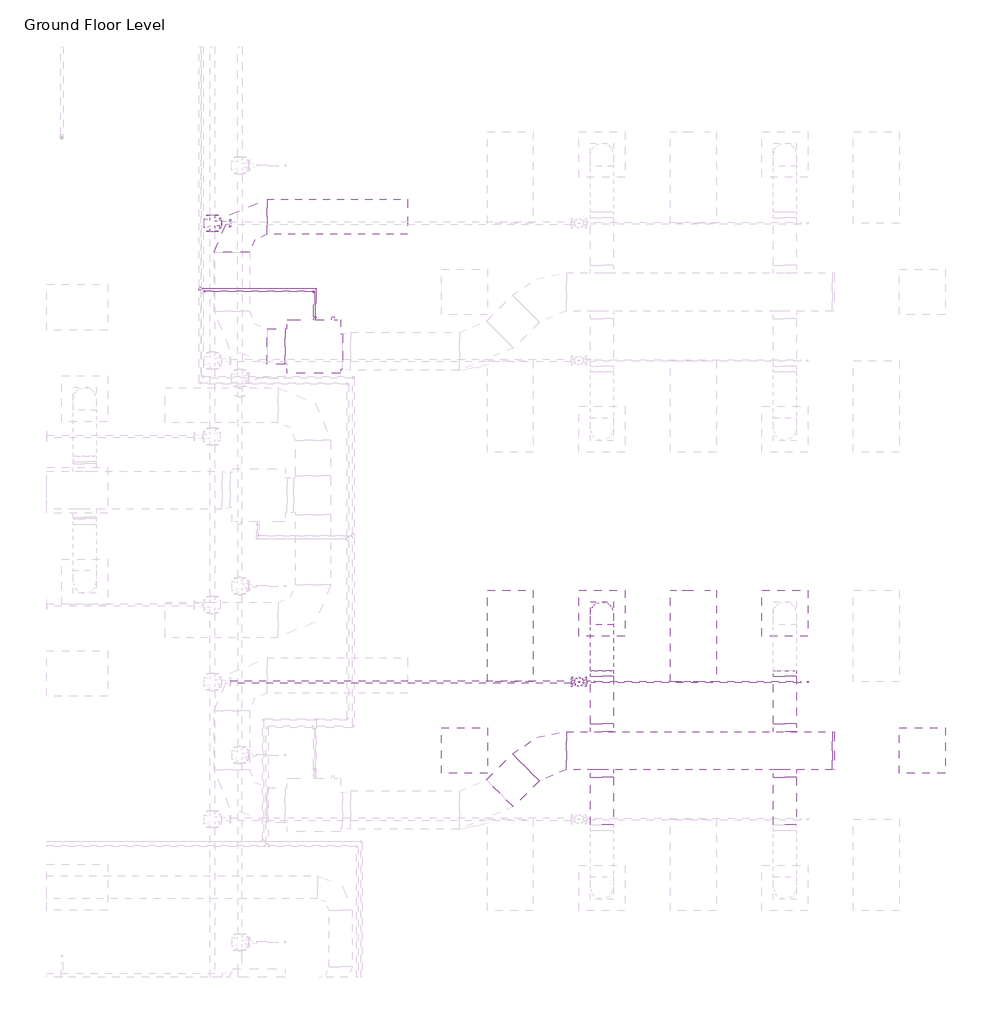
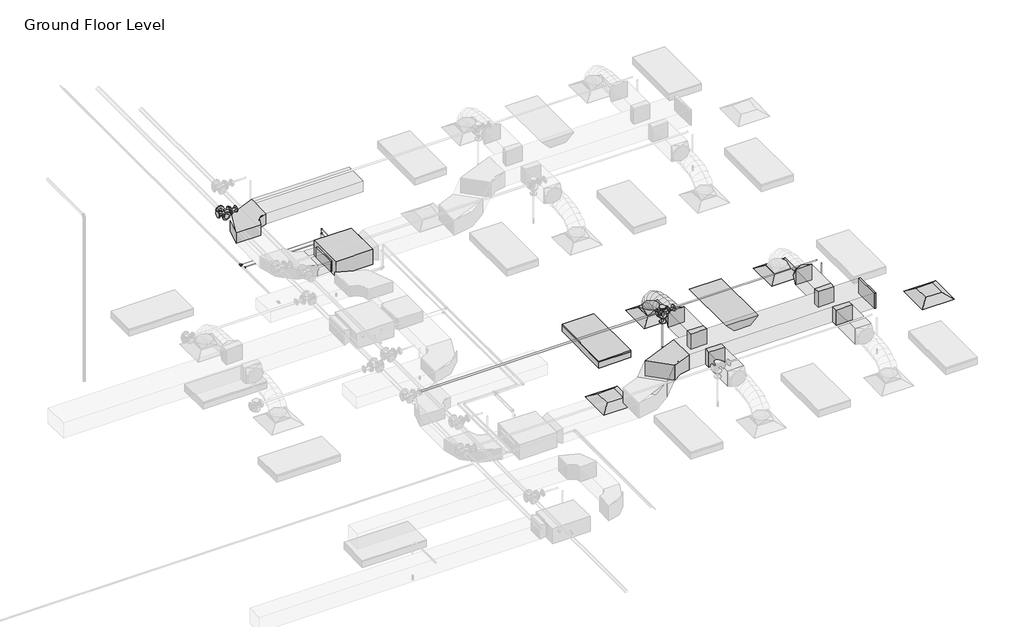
# One storey, part 62 of 72: 12 pipe fittings, 10 duct fittings, 10 pipe segments, 9 duct segments, 4 air terminals, 2 fire suppression terminals, 2 light fixtures, 1 proxy.
"""IFC4 building model written with IfcOpenShell, lengths in millimetres."""

from ifc_helpers import new_model, si_unit, point, frame, frame_2d, origin, place, context, project, spatial, polyline, circle_curve, ellipse_curve, trimmed, segment, composite_curve, outline, extrude, transform, mapped, element, save
from ifc_brep_helpers import plane_surface, cylinder_surface, advanced_brep
from components import m_return_diffuser_600_x_600_face_300_x_300_connection_ff221211, fcu_daikin_iu_bad131e0, m_rectangular_elbow_radius_1_w_54c96895, m_rectangular_elbow_radius_1_5_w_acc56c25, m_rectangular_endcap_standard_72d4d00d, m_rectangular_takeoff_standard_cb0ccb98, m_rectangular_takeoff_standard_2be5eba1, m_rectangular_to_round_transition_angle_45_degree_641efff0, m_sprinkler_dry_pendent_hosted_15_mm_dry_pendent_9bda8e11, m_emergency_recessed_lighting_fixture_600x1200_277_5b10b25d, m_troffer_light_parabolic_rectangular1_0600x1200mm_4_lamp_86473d4a, m_elbow_generic_standard_a088f956, m_elbow_generic_standard_2a704253, m_reducer_flanged_cs_class_150_standard_ccf252ad, m_reducer_flanged_cs_class_150_standard_a7631c35, m_tee_generic_standard_cdc1cff5, m_tee_round_base_flanged_cs_class_150_standard_dd767e04, m_tee_round_base_flanged_cs_class_150_standard_7e5987a1, m_transition_generic_standard_e9aec4dd, m_transition_generic_standard_c2658a33

model = new_model("IFC4")

# Units and contexts
model_context = context("Model", 3, world=origin())
ifc_project = project(units=[si_unit("LENGTHUNIT", "METRE", prefix="MILLI")], contexts=[model_context])

# Site, building, storey
site = spatial("IfcSite", under=ifc_project)
building = spatial("IfcBuilding", under=site)
storey = spatial("IfcBuildingStorey", under=building, Name="Ground Floor Level", Elevation=900.0)

# Air terminals
placement = place(None, origin())
m_return_diffuser_600_x_600_face_300_x_300_connection_shape = m_return_diffuser_600_x_600_face_300_x_300_connection_ff221211(model_context)
element("IfcAirTerminal", 1, ObjectType="M_Return Diffuser : 600 x 600 Face 300 x 300 Connection", at=placement, inside=storey, context=model_context, shape_type="MappedRepresentation", body=[
    mapped(m_return_diffuser_600_x_600_face_300_x_300_connection_shape, transform((8942.7672395, 725.2153534, 3650.0), x_axis=(1.0, 0.0, 0.0), y_axis=(0.0, 1.0, 0.0), z_axis=(0.0, 0.0, 1.0))),
])
element("IfcAirTerminal", 2, ObjectType="M_Return Diffuser : 600 x 600 Face 300 x 300 Connection", at=placement, inside=storey, context=model_context, shape_type="MappedRepresentation", body=[
    mapped(m_return_diffuser_600_x_600_face_300_x_300_connection_shape, transform((14942.7672395, 725.2153534, 3650.0), x_axis=(1.0, 0.0, 0.0), y_axis=(0.0, 1.0, 0.0), z_axis=(0.0, 0.0, 1.0))),
])
element("IfcAirTerminal", 3, ObjectType="M_Supply Diffuser : 600 x 600 Face 300 x 300 Connection", at=placement, inside=storey, context=model_context, shape_type="MappedRepresentation", body=[
    mapped(m_return_diffuser_600_x_600_face_300_x_300_connection_shape, transform((10742.7672395, 2525.2153534, 3650.0), x_axis=(1.0, 0.0, 0.0), y_axis=(0.0, 1.0, 0.0), z_axis=(0.0, 0.0, 1.0))),
])
element("IfcAirTerminal", 4, ObjectType="M_Supply Diffuser : 600 x 600 Face 300 x 300 Connection", at=placement, inside=storey, context=model_context, shape_type="MappedRepresentation", body=[
    mapped(m_return_diffuser_600_x_600_face_300_x_300_connection_shape, transform((13142.7672395, 2525.2153534, 3650.0), x_axis=(1.0, 0.0, 0.0), y_axis=(0.0, 1.0, 0.0), z_axis=(0.0, 0.0, 1.0))),
])

# Proxy
fcu_daikin_iu_shape = fcu_daikin_iu_bad131e0(model_context)
element("IfcBuildingElementProxy", 5, Name="FCU-DAIKIN IU : 4.5kW, 230V/50Hz/1Ph", ObjectType="FCU-DAIKIN IU : 4.5kW, 230V/50Hz/1Ph", at=placement, inside=storey, context=model_context, shape_type="MappedRepresentation", body=[
    mapped(fcu_daikin_iu_shape, transform((6968.8139492, 6019.6779527, 3934.0932729), x_axis=(0.0, 1.0, 0.0), y_axis=(-1.0, 0.0, 0.0), z_axis=(0.0, 0.0, 1.0))),
])

# Duct fittings
m_rectangular_elbow_radius_1_w_shape = m_rectangular_elbow_radius_1_w_54c96895(model_context)
element("IfcDuctFitting", 6, ObjectType="M_Rectangular Elbow - Radius : 1 W", at=placement, inside=storey, context=model_context, shape_type="MappedRepresentation", body=[
    mapped(m_rectangular_elbow_radius_1_w_shape, transform((5893.4139492, 7719.6783949, 4075.2932729), x_axis=(-1.0, 0.0, 0.0), y_axis=(0.0, -1.0, 0.0), z_axis=(0.0, 0.0, 1.0))),
])
m_rectangular_elbow_radius_1_5_w_shape = m_rectangular_elbow_radius_1_5_w_acc56c25(model_context)
element("IfcDuctFitting", 7, ObjectType="M_Rectangular Elbow - Radius : 1.5 W", at=placement, inside=storey, context=model_context, shape_type="MappedRepresentation", body=[
    mapped(m_rectangular_elbow_radius_1_5_w_shape, transform((9966.7301365, 725.2153534, 4100.0), x_axis=(-1.0, 0.0, 0.0), y_axis=(0.0, -0.9999999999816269, 6.061864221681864e-06), z_axis=(0.0, 6.061864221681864e-06, 0.9999999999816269))),
])
m_rectangular_endcap_standard_shape = m_rectangular_endcap_standard_72d4d00d(model_context)
element("IfcDuctFitting", 8, ObjectType="M_Rectangular Endcap : Standard", at=placement, inside=storey, context=model_context, shape_type="MappedRepresentation", body=[
    mapped(m_rectangular_endcap_standard_shape, transform((13766.7301365, 725.2153534, 4100.0), x_axis=(1.0, 0.0, 0.0), y_axis=(0.0, 1.0, 0.0), z_axis=(0.0, 0.0, 1.0))),
])
m_rectangular_takeoff_standard_shape = m_rectangular_takeoff_standard_cb0ccb98(model_context)
element("IfcDuctFitting", 9, ObjectType="M_Rectangular Takeoff : Standard", at=placement, inside=storey, context=model_context, shape_type="MappedRepresentation", body=[
    mapped(m_rectangular_takeoff_standard_shape, transform((10742.7672395, 975.2153534, 4100.0), x_axis=(0.0, 1.0, 0.0), y_axis=(1.0, 0.0, 0.0), z_axis=(0.0, 0.0, -1.0))),
])
element("IfcDuctFitting", 10, ObjectType="M_Rectangular Takeoff : Standard", at=placement, inside=storey, context=model_context, shape_type="MappedRepresentation", body=[
    mapped(m_rectangular_takeoff_standard_shape, transform((13142.7672395, 975.2153534, 4100.0), x_axis=(0.0, 1.0, 0.0), y_axis=(1.0, 0.0, 0.0), z_axis=(0.0, 0.0, -1.0))),
])
m_rectangular_takeoff_standard_2_shape = m_rectangular_takeoff_standard_2be5eba1(model_context)
element("IfcDuctFitting", 11, ObjectType="M_Rectangular Takeoff : Standard", at=placement, inside=storey, context=model_context, shape_type="MappedRepresentation", body=[
    mapped(m_rectangular_takeoff_standard_2_shape, transform((10742.7672395, 475.2153534, 4100.0), x_axis=(0.0, -1.0, 0.0), y_axis=(-1.0, 0.0, 0.0), z_axis=(0.0, 0.0, -1.0))),
])
element("IfcDuctFitting", 12, ObjectType="M_Rectangular Takeoff : Standard", at=placement, inside=storey, context=model_context, shape_type="MappedRepresentation", body=[
    mapped(m_rectangular_takeoff_standard_2_shape, transform((13142.7672395, 475.2153534, 4100.0), x_axis=(0.0, -1.0, 0.0), y_axis=(-1.0, 0.0, 0.0), z_axis=(0.0, 0.0, -1.0))),
])
m_rectangular_to_round_transition_angle_45_degree_shape = m_rectangular_to_round_transition_angle_45_degree_641efff0(model_context)
element("IfcDuctFitting", 13, ObjectType="M_Rectangular to Round Transition - Angle : 45 Degree", at=placement, inside=storey, context=model_context, shape_type="MappedRepresentation", body=[
    mapped(m_rectangular_to_round_transition_angle_45_degree_shape, transform((10742.7672395, 2525.2153534, 3751.6), x_axis=(0.0, 0.0, 1.0), y_axis=(-1.0, 0.0, 0.0), z_axis=(0.0, -1.0, 0.0))),
])
element("IfcDuctFitting", 14, ObjectType="M_Rectangular to Round Transition - Angle : 45 Degree", at=placement, inside=storey, context=model_context, shape_type="MappedRepresentation", body=[
    mapped(m_rectangular_to_round_transition_angle_45_degree_shape, transform((10742.7672395, 1697.8794221, 4100.0), x_axis=(0.0, 1.0, 0.0), y_axis=(-1.0, 0.0, 0.0), z_axis=(0.0, 0.0, 1.0))),
])
element("IfcDuctFitting", 15, ObjectType="M_Rectangular to Round Transition - Angle : 45 Degree", at=placement, inside=storey, context=model_context, shape_type="MappedRepresentation", body=[
    mapped(m_rectangular_to_round_transition_angle_45_degree_shape, transform((13142.7672395, 1697.8794221, 4100.0), x_axis=(0.0, 1.0, 0.0), y_axis=(-1.0, 0.0, 0.0), z_axis=(0.0, 0.0, 1.0))),
])

# Duct segments
element("IfcDuctSegment", 16, ObjectType="Flex - Round", at=placement, inside=storey, context=model_context, shape_type="AdvancedBrep", body=[
    advanced_brep(
    [(10892.7672395, 2525.2153534, 3826.6), (10742.7672395, 2375.2153534, 3826.6), (10592.7672395, 2525.2153534, 3826.6), (10742.7672395, 2675.2153534, 3826.6), (10892.7672395, 2525.2153534, 3857.9377114), (10742.7672395, 2375.2153534, 3832.2944892), (10592.7672395, 2525.2153534, 3857.9377114), (10742.7672395, 2675.2153534, 3883.5809337), (10892.7672395, 2508.1994208, 3906.2505728), (10742.7672395, 2374.4614419, 3834.435049), (10592.7672395, 2508.1994208, 3906.2505728), (10742.7672395, 2641.9373998, 3978.0660967), (10892.7672395, 2461.0155405, 3968.7113131), (10742.7672395, 2356.8096412, 3857.8020236), (10592.7672395, 2461.0155405, 3968.7113131), (10742.7672395, 2565.2214397, 4079.6206026), (10892.7672395, 2389.4595883, 4016.0700639), (10742.7672395, 2320.5255327, 3881.8163788), (10592.7672395, 2389.4595883, 4016.0700639), (10742.7672395, 2458.3936439, 4150.3237489), (10892.7672395, 2299.3274403, 4050.4146682), (10742.7672395, 2255.7666771, 3906.4925606), (10592.7672395, 2299.3274403, 4050.4146682), (10742.7672395, 2342.8882035, 4194.3367758), (10892.7672395, 2196.4149725, 4073.8329691), (10742.7672395, 2169.8540485, 3926.0424542), (10592.7672395, 2196.4149725, 4073.8329691), (10742.7672395, 2222.9758965, 4221.6234841), (10892.7672395, 2086.5180607, 4088.4128097), (10742.7672395, 2071.3671584, 3939.1085462), (10592.7672395, 2086.5180607, 4088.4128097), (10742.7672395, 2101.6689631, 4237.7170733), (10892.7672395, 1975.4325811, 4096.242033), (10742.7672395, 1967.9272529, 3946.398915), (10592.7672395, 1975.4325811, 4096.242033), (10742.7672395, 1982.9379093, 4246.085151), (10892.7672395, 1868.9544096, 4099.4084821), (10742.7672395, 1866.2629165, 3949.4222102), (10592.7672395, 1868.9544096, 4099.4084821), (10742.7672395, 1871.6459027, 4249.394754), (10892.7672395, 1772.8794221, 4100.0), (10742.7672395, 1773.8029299, 4249.9971571), (10592.7672395, 1772.8794221, 4100.0), (10742.7672395, 1771.9559143, 3950.0028429)],
    [
        (0, 1, circle_curve(frame((10742.7672395, 2525.2153534, 3826.6), z_axis=(0.0, 0.0, -1.0), x_axis=(1.0, 0.0, 0.0)), 150.0)),
        (1, 2, circle_curve(frame((10742.7672395, 2525.2153534, 3826.6), z_axis=(0.0, 0.0, -1.0), x_axis=(1.0, 0.0, 0.0)), 150.0)),
        (2, 3, circle_curve(frame((10742.7672395, 2525.2153534, 3826.6), z_axis=(0.0, 0.0, -1.0), x_axis=(1.0, 0.0, 0.0)), 150.0)),
        (3, 0, circle_curve(frame((10742.7672395, 2525.2153534, 3826.6), z_axis=(0.0, 0.0, -1.0), x_axis=(1.0, 0.0, 0.0)), 150.0)),
        (0, 4),
        (4, 5, ellipse_curve(frame((10742.7672395, 2525.2153534, 3857.9377114), z_axis=(0.0, 0.16851014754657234, -0.9856999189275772), x_axis=(0.0, -0.9856999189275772, -0.1685101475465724)), 152.176131, 150.0)),
        (5, 1),
        (5, 6, ellipse_curve(frame((10742.7672395, 2525.2153534, 3857.9377114), z_axis=(0.0, 0.16851014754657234, -0.9856999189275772), x_axis=(0.0, -0.9856999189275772, -0.1685101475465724)), 152.176131, 150.0)),
        (6, 2),
        (6, 7, ellipse_curve(frame((10742.7672395, 2525.2153534, 3857.9377114), z_axis=(0.0, 0.16851014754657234, -0.9856999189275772), x_axis=(0.0, -0.9856999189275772, -0.1685101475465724)), 152.176131, 150.0)),
        (7, 3),
        (7, 4, ellipse_curve(frame((10742.7672395, 2525.2153534, 3857.9377114), z_axis=(0.0, 0.16851014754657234, -0.9856999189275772), x_axis=(0.0, -0.9856999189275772, -0.1685101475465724)), 152.176131, 150.0)),
        (4, 8),
        (8, 9, ellipse_curve(frame((10742.7672395, 2508.1994208, 3906.2505728), z_axis=(0.0, 0.47309225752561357, -0.8810128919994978), x_axis=(0.0, -0.8810128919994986, -0.47309225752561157)), 151.8002519, 150.0)),
        (9, 5),
        (9, 10, ellipse_curve(frame((10742.7672395, 2508.1994208, 3906.2505728), z_axis=(0.0, 0.47309225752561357, -0.8810128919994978), x_axis=(0.0, -0.8810128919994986, -0.47309225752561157)), 151.8002519, 150.0)),
        (10, 6),
        (10, 11, ellipse_curve(frame((10742.7672395, 2508.1994208, 3906.2505728), z_axis=(0.0, 0.47309225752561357, -0.8810128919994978), x_axis=(0.0, -0.8810128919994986, -0.47309225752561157)), 151.8002519, 150.0)),
        (11, 7),
        (11, 8, ellipse_curve(frame((10742.7672395, 2508.1994208, 3906.2505728), z_axis=(0.0, 0.47309225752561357, -0.8810128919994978), x_axis=(0.0, -0.8810128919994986, -0.47309225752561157)), 151.8002519, 150.0)),
        (8, 12),
        (12, 13, ellipse_curve(frame((10742.7672395, 2461.0155405, 3968.7113131), z_axis=(0.0, 0.7287877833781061, -0.6847396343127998), x_axis=(0.0, -0.6847396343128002, -0.7287877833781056)), 152.1832446, 150.0)),
        (13, 9),
        (13, 14, ellipse_curve(frame((10742.7672395, 2461.0155405, 3968.7113131), z_axis=(0.0, 0.7287877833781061, -0.6847396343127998), x_axis=(0.0, -0.6847396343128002, -0.7287877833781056)), 152.1832446, 150.0)),
        (14, 10),
        (14, 15, ellipse_curve(frame((10742.7672395, 2461.0155405, 3968.7113131), z_axis=(0.0, 0.7287877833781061, -0.6847396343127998), x_axis=(0.0, -0.6847396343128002, -0.7287877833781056)), 152.1832446, 150.0)),
        (15, 11),
        (15, 12, ellipse_curve(frame((10742.7672395, 2461.0155405, 3968.7113131), z_axis=(0.0, 0.7287877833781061, -0.6847396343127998), x_axis=(0.0, -0.6847396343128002, -0.7287877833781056)), 152.1832446, 150.0)),
        (12, 16),
        (16, 17, ellipse_curve(frame((10742.7672395, 2389.4595883, 4016.0700639), z_axis=(0.0, 0.8895859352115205, -0.45676784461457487), x_axis=(0.0, -0.4567678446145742, -0.8895859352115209)), 150.91705, 150.0)),
        (17, 13),
        (17, 18, ellipse_curve(frame((10742.7672395, 2389.4595883, 4016.0700639), z_axis=(0.0, 0.8895859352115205, -0.45676784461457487), x_axis=(0.0, -0.4567678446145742, -0.8895859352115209)), 150.91705, 150.0)),
        (18, 14),
        (18, 19, ellipse_curve(frame((10742.7672395, 2389.4595883, 4016.0700639), z_axis=(0.0, 0.8895859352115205, -0.45676784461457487), x_axis=(0.0, -0.4567678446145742, -0.8895859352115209)), 150.91705, 150.0)),
        (19, 15),
        (19, 16, ellipse_curve(frame((10742.7672395, 2389.4595883, 4016.0700639), z_axis=(0.0, 0.8895859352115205, -0.45676784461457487), x_axis=(0.0, -0.4567678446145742, -0.8895859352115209)), 150.91705, 150.0)),
        (16, 20),
        (20, 21, ellipse_curve(frame((10742.7672395, 2299.3274403, 4050.4146682), z_axis=(0.0, 0.9571203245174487, -0.2896906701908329), x_axis=(0.0, -0.28969067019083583, -0.9571203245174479)), 150.369921, 150.0)),
        (21, 17),
        (21, 22, ellipse_curve(frame((10742.7672395, 2299.3274403, 4050.4146682), z_axis=(0.0, 0.9571203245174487, -0.2896906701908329), x_axis=(0.0, -0.28969067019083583, -0.9571203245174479)), 150.369921, 150.0)),
        (22, 18),
        (22, 23, ellipse_curve(frame((10742.7672395, 2299.3274403, 4050.4146682), z_axis=(0.0, 0.9571203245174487, -0.2896906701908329), x_axis=(0.0, -0.28969067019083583, -0.9571203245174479)), 150.369921, 150.0)),
        (23, 19),
        (23, 20, ellipse_curve(frame((10742.7672395, 2299.3274403, 4050.4146682), z_axis=(0.0, 0.9571203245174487, -0.2896906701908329), x_axis=(0.0, -0.28969067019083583, -0.9571203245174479)), 150.369921, 150.0)),
        (20, 24),
        (24, 25, ellipse_curve(frame((10742.7672395, 2196.4149725, 4073.8329691), z_axis=(0.0, 0.9842313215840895, -0.1768861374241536), x_axis=(0.0, -0.1768861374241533, -0.9842313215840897)), 150.1583131, 150.0)),
        (25, 21),
        (25, 26, ellipse_curve(frame((10742.7672395, 2196.4149725, 4073.8329691), z_axis=(0.0, 0.9842313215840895, -0.1768861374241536), x_axis=(0.0, -0.1768861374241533, -0.9842313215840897)), 150.1583131, 150.0)),
        (26, 22),
        (26, 27, ellipse_curve(frame((10742.7672395, 2196.4149725, 4073.8329691), z_axis=(0.0, 0.9842313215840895, -0.1768861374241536), x_axis=(0.0, -0.1768861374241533, -0.9842313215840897)), 150.1583131, 150.0)),
        (27, 23),
        (27, 24, ellipse_curve(frame((10742.7672395, 2196.4149725, 4073.8329691), z_axis=(0.0, 0.9842313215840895, -0.1768861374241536), x_axis=(0.0, -0.1768861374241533, -0.9842313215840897)), 150.1583131, 150.0)),
        (24, 28),
        (28, 29, ellipse_curve(frame((10742.7672395, 2086.5180607, 4088.4128097), z_axis=(0.0, 0.9948906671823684, -0.10095821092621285), x_axis=(0.0, -0.10095821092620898, -0.9948906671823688)), 150.0710264, 150.0)),
        (29, 25),
        (29, 30, ellipse_curve(frame((10742.7672395, 2086.5180607, 4088.4128097), z_axis=(0.0, 0.9948906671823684, -0.10095821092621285), x_axis=(0.0, -0.10095821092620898, -0.9948906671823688)), 150.0710264, 150.0)),
        (30, 26),
        (30, 31, ellipse_curve(frame((10742.7672395, 2086.5180607, 4088.4128097), z_axis=(0.0, 0.9948906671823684, -0.10095821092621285), x_axis=(0.0, -0.10095821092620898, -0.9948906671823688)), 150.0710264, 150.0)),
        (31, 27),
        (31, 28, ellipse_curve(frame((10742.7672395, 2086.5180607, 4088.4128097), z_axis=(0.0, 0.9948906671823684, -0.10095821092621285), x_axis=(0.0, -0.10095821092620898, -0.9948906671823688)), 150.0710264, 150.0)),
        (28, 32),
        (32, 33, ellipse_curve(frame((10742.7672395, 1975.4325811, 4096.242033), z_axis=(0.0, 0.9987479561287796, -0.050025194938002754), x_axis=(0.0, -0.05002519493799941, -0.99874795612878)), 150.0309634, 150.0)),
        (33, 29),
        (33, 34, ellipse_curve(frame((10742.7672395, 1975.4325811, 4096.242033), z_axis=(0.0, 0.9987479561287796, -0.050025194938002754), x_axis=(0.0, -0.05002519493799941, -0.99874795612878)), 150.0309634, 150.0)),
        (34, 30),
        (34, 35, ellipse_curve(frame((10742.7672395, 1975.4325811, 4096.242033), z_axis=(0.0, 0.9987479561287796, -0.050025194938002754), x_axis=(0.0, -0.05002519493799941, -0.99874795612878)), 150.0309634, 150.0)),
        (35, 31),
        (35, 32, ellipse_curve(frame((10742.7672395, 1975.4325811, 4096.242033), z_axis=(0.0, 0.9987479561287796, -0.050025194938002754), x_axis=(0.0, -0.05002519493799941, -0.99874795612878)), 150.0309634, 150.0)),
        (32, 36),
        (36, 37, ellipse_curve(frame((10742.7672395, 1868.9544096, 4099.4084821), z_axis=(0.0, 0.9998390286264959, -0.01794204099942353), x_axis=(0.0, -0.017942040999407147, -0.9998390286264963)), 150.0104193, 150.0)),
        (37, 33),
        (37, 38, ellipse_curve(frame((10742.7672395, 1868.9544096, 4099.4084821), z_axis=(0.0, 0.9998390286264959, -0.01794204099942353), x_axis=(0.0, -0.017942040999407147, -0.9998390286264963)), 150.0104193, 150.0)),
        (38, 34),
        (38, 39, ellipse_curve(frame((10742.7672395, 1868.9544096, 4099.4084821), z_axis=(0.0, 0.9998390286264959, -0.01794204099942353), x_axis=(0.0, -0.017942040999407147, -0.9998390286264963)), 150.0104193, 150.0)),
        (39, 35),
        (39, 36, ellipse_curve(frame((10742.7672395, 1868.9544096, 4099.4084821), z_axis=(0.0, 0.9998390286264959, -0.01794204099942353), x_axis=(0.0, -0.017942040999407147, -0.9998390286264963)), 150.0104193, 150.0)),
        (40, 41, circle_curve(frame((10742.7672395, 1772.8794221, 4100.0), z_axis=(0.0, -0.9999810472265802, 0.006156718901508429), x_axis=(1.0, 0.0, 0.0)), 150.0)),
        (41, 42, circle_curve(frame((10742.7672395, 1772.8794221, 4100.0), z_axis=(0.0, -0.9999810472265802, 0.006156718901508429), x_axis=(1.0, 0.0, 0.0)), 150.0)),
        (42, 43, circle_curve(frame((10742.7672395, 1772.8794221, 4100.0), z_axis=(0.0, -0.9999810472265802, 0.006156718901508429), x_axis=(1.0, 0.0, 0.0)), 150.0)),
        (43, 40, circle_curve(frame((10742.7672395, 1772.8794221, 4100.0), z_axis=(0.0, -0.9999810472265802, 0.006156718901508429), x_axis=(1.0, 0.0, 0.0)), 150.0)),
        (36, 40),
        (43, 37),
        (42, 38),
        (41, 39),
    ],
    [
        plane_surface(frame((10742.7672395, 2375.2153534, 3826.6), z_axis=(0.0, 0.0, -1.0), x_axis=(1.0, 0.0, 0.0))),
        cylinder_surface(frame((10742.7672395, 2525.2153534, 3826.6), z_axis=(0.0, 0.0, -1.0), x_axis=(1.0, 0.0, 0.0)), 150.0),
        cylinder_surface(frame((10742.7672395, 2525.2153534, 3857.9377114), z_axis=(0.0, 0.3322008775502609, -0.9432086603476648), x_axis=(1.0, 0.0, 0.0)), 150.0),
        cylinder_surface(frame((10742.7672395, 2508.1994208, 3906.2505728), z_axis=(0.0, 0.6027625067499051, -0.7979206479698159), x_axis=(1.0, 0.0, 0.0)), 150.0),
        cylinder_surface(frame((10742.7672395, 2461.0155405, 3968.7113131), z_axis=(0.0, 0.8339024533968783, -0.5519118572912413), x_axis=(1.0, 0.0, 0.0)), 150.0),
        cylinder_surface(frame((10742.7672395, 2389.4595883, 4016.0700639), z_axis=(0.0, 0.9344582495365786, -0.35607271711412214), x_axis=(1.0, 0.0, 0.0)), 150.0),
        cylinder_surface(frame((10742.7672395, 2299.3274403, 4050.4146682), z_axis=(0.0, 0.9750732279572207, -0.22188330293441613), x_axis=(1.0, 0.0, 0.0)), 150.0),
        cylinder_surface(frame((10742.7672395, 2196.4149725, 4073.8329691), z_axis=(0.0, 0.9913140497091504, -0.13151598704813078), x_axis=(1.0, 0.0, 0.0)), 150.0),
        cylinder_surface(frame((10742.7672395, 2086.5180607, 4088.4128097), z_axis=(0.0, 0.9975255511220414, -0.07030487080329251), x_axis=(1.0, 0.0, 0.0)), 150.0),
        cylinder_surface(frame((10742.7672395, 1975.4325811, 4096.242033), z_axis=(0.0, 0.9995581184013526, -0.029724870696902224), x_axis=(1.0, 0.0, 0.0)), 150.0),
        plane_surface(frame((10742.7672395, 1771.9559143, 3950.0028429), z_axis=(0.0, -0.9999810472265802, 0.006156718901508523), x_axis=(1.0, 0.0, 0.0))),
        cylinder_surface(frame((10742.7672395, 1868.9544096, 4099.4084821), z_axis=(0.0, 0.9999810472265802, -0.006156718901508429), x_axis=(1.0, 0.0, 0.0)), 150.0),
    ],
    [
        (0, [[1, 2, 3, 4]]),
        (1, [[-1, 5, 6, 7]]),
        (1, [[-2, -7, 8, 9]]),
        (1, [[-3, -9, 10, 11]]),
        (1, [[-4, -11, 12, -5]]),
        (2, [[-6, 13, 14, 15]]),
        (2, [[-8, -15, 16, 17]]),
        (2, [[-10, -17, 18, 19]]),
        (2, [[-12, -19, 20, -13]]),
        (3, [[-14, 21, 22, 23]]),
        (3, [[-16, -23, 24, 25]]),
        (3, [[-18, -25, 26, 27]]),
        (3, [[-20, -27, 28, -21]]),
        (4, [[-22, 29, 30, 31]]),
        (4, [[-24, -31, 32, 33]]),
        (4, [[-26, -33, 34, 35]]),
        (4, [[-28, -35, 36, -29]]),
        (5, [[-30, 37, 38, 39]]),
        (5, [[-32, -39, 40, 41]]),
        (5, [[-34, -41, 42, 43]]),
        (5, [[-36, -43, 44, -37]]),
        (6, [[-38, 45, 46, 47]]),
        (6, [[-40, -47, 48, 49]]),
        (6, [[-42, -49, 50, 51]]),
        (6, [[-44, -51, 52, -45]]),
        (7, [[-46, 53, 54, 55]]),
        (7, [[-48, -55, 56, 57]]),
        (7, [[-50, -57, 58, 59]]),
        (7, [[-52, -59, 60, -53]]),
        (8, [[-54, 61, 62, 63]]),
        (8, [[-56, -63, 64, 65]]),
        (8, [[-58, -65, 66, 67]]),
        (8, [[-60, -67, 68, -61]]),
        (9, [[-62, 69, 70, 71]]),
        (9, [[-64, -71, 72, 73]]),
        (9, [[-66, -73, 74, 75]]),
        (9, [[-68, -75, 76, -69]]),
        (10, [[77, 78, 79, 80]]),
        (11, [[-70, 81, -80, 82]]),
        (11, [[-72, -82, -79, 83]]),
        (11, [[-74, -83, -78, 84]]),
        (11, [[-76, -84, -77, -81]]),
    ],
),
])
element("IfcDuctSegment", 17, ObjectType="Radius Elbows / Taps", at=placement, inside=storey, context=model_context, shape_type="SweptSolid", body=[
    extrude(outline(polyline([(6593.4139492, 6250.6154527), (6593.4139492, 5788.7404527), (6355.2889492, 5788.7404527), (6355.2889492, 6250.6154527), (6593.4139492, 6250.6154527)])), frame((0.0, 0.0, 3968.1432729), z_axis=(0.0, 0.0, 1.0), x_axis=(1.0, 0.0, 0.0)), (0.0, 0.0, 1.0), 214.3),
])
element("IfcDuctSegment", 18, ObjectType="Radius Elbows / Taps", at=placement, inside=storey, context=model_context, shape_type="SweptSolid", body=[
    extrude(outline(polyline([(6355.2889492, 7488.7408949), (6355.2889492, 7950.6158949), (8193.4139492, 7950.6158949), (8193.4139492, 7488.7408949), (6355.2889492, 7488.7408949)])), frame((0.0, 0.0, 3968.1432729), z_axis=(0.0, 0.0, 1.0), x_axis=(1.0, 0.0, 0.0)), (0.0, 0.0, 1.0), 214.3),
])
element("IfcDuctSegment", 19, ObjectType="Radius Elbows / Taps", at=placement, inside=storey, context=model_context, shape_type="SweptSolid", body=[
    extrude(outline(polyline([(9584.1393452, -10.9288285), (9230.5859546, 342.6245621), (9570.2835271, 682.3221346), (9923.8369177, 328.768744), (9584.1393452, -10.9288285)])), frame((0.0, 0.0, 3950.0033908), z_axis=(0.0, 0.0, 1.0), x_axis=(1.0, 0.0, 0.0)), (0.0, 0.0, 1.0), 300.0),
])
element("IfcDuctSegment", 20, ObjectType="Radius Elbows / Taps", at=placement, inside=storey, context=model_context, shape_type="SweptSolid", body=[
    extrude(outline(polyline([(10277.3903083, 475.2153534), (10277.3903083, 975.2153534), (13766.7301365, 975.2153534), (13766.7301365, 475.2153534), (10277.3903083, 475.2153534)])), frame((0.0, 0.0, 3950.0), z_axis=(0.0, 0.0, 1.0), x_axis=(1.0, 0.0, 0.0)), (0.0, 0.0, 1.0), 300.0),
])
element("IfcDuctSegment", 21, ObjectType="Radius Elbows / Taps", at=placement, inside=storey, context=model_context, shape_type="SweptSolid", body=[
    extrude(outline(polyline([(10892.7672395, 1076.8153534), (10592.7672395, 1076.8153534), (10592.7672395, 1697.8794221), (10892.7672395, 1697.8794221), (10892.7672395, 1076.8153534)])), frame((0.0, 0.0, 3950.0), z_axis=(0.0, 0.0, 1.0), x_axis=(1.0, 0.0, 0.0)), (0.0, 0.0, 1.0), 300.0),
])
element("IfcDuctSegment", 22, ObjectType="Radius Elbows / Taps", at=placement, inside=storey, context=model_context, shape_type="SweptSolid", body=[
    extrude(outline(polyline([(13292.7672395, 1076.8153534), (12992.7672395, 1076.8153534), (12992.7672395, 1697.8794221), (13292.7672395, 1697.8794221), (13292.7672395, 1076.8153534)])), frame((0.0, 0.0, 3950.0), z_axis=(0.0, 0.0, 1.0), x_axis=(1.0, 0.0, 0.0)), (0.0, 0.0, 1.0), 300.0),
])
element("IfcDuctSegment", 23, ObjectType="Radius Elbows / Taps", at=placement, inside=storey, context=model_context, shape_type="SweptSolid", body=[
    extrude(outline(polyline([(10592.7672395, 373.6153534), (10892.7672395, 373.6153534), (10892.7672395, -247.4487153), (10592.7672395, -247.4487153), (10592.7672395, 373.6153534)])), frame((0.0, 0.0, 3950.0), z_axis=(0.0, 0.0, 1.0), x_axis=(1.0, 0.0, 0.0)), (0.0, 0.0, 1.0), 300.0),
])
element("IfcDuctSegment", 24, ObjectType="Radius Elbows / Taps", at=placement, inside=storey, context=model_context, shape_type="SweptSolid", body=[
    extrude(outline(polyline([(12992.7672395, 373.6153534), (13292.7672395, 373.6153534), (13292.7672395, -247.4487153), (12992.7672395, -247.4487153), (12992.7672395, 373.6153534)])), frame((0.0, 0.0, 3950.0), z_axis=(0.0, 0.0, 1.0), x_axis=(1.0, 0.0, 0.0)), (0.0, 0.0, 1.0), 300.0),
])

# Fire suppression terminals
m_sprinkler_dry_pendent_hosted_15_mm_dry_pendent_shape = m_sprinkler_dry_pendent_hosted_15_mm_dry_pendent_9bda8e11(model_context)
element("IfcFireSuppressionTerminal", 25, ObjectType="M_Sprinkler - Dry - Pendent - Hosted : 15 mm Dry Pendent", at=placement, inside=storey, context=model_context, shape_type="MappedRepresentation", body=[
    mapped(m_sprinkler_dry_pendent_hosted_15_mm_dry_pendent_shape, transform((10442.7672395, 1625.2153534, 3650.0), x_axis=(1.0, 0.0, 0.0), y_axis=(0.0, -1.0, 0.0), z_axis=(0.0, 0.0, -1.0))),
])
element("IfcFireSuppressionTerminal", 26, ObjectType="M_Sprinkler - Dry - Pendent - Hosted : 15 mm Dry Pendent", at=placement, inside=storey, context=model_context, shape_type="MappedRepresentation", body=[
    mapped(m_sprinkler_dry_pendent_hosted_15_mm_dry_pendent_shape, transform((13442.7672395, 1625.2153534, 3650.0), x_axis=(1.0, 0.0, 0.0), y_axis=(0.0, -1.0, 0.0), z_axis=(0.0, 0.0, -1.0))),
])

# Light fixtures
m_emergency_recessed_lighting_fixture_600x1200_277_shape = m_emergency_recessed_lighting_fixture_600x1200_277_5b10b25d(model_context)
element("IfcLightFixture", 27, ObjectType="M_Emergency Recessed Lighting Fixture : 600x1200 - 277", at=placement, inside=storey, context=model_context, shape_type="MappedRepresentation", body=[
    mapped(m_emergency_recessed_lighting_fixture_600x1200_277_shape, transform((11642.7672395, 1625.2153534, 3650.0), x_axis=(0.0, 1.0, 0.0), y_axis=(-1.0, 0.0, 0.0), z_axis=(0.0, 0.0, 1.0))),
])
m_troffer_light_parabolic_rectangular1_0600x1200mm_4_lamp_shape = m_troffer_light_parabolic_rectangular1_0600x1200mm_4_lamp_86473d4a(model_context)
element("IfcLightFixture", 28, ObjectType="M_Troffer Light - Parabolic Rectangular1 : 0600x1200mm(4 Lamp) - 277V 2", at=placement, inside=storey, context=model_context, shape_type="MappedRepresentation", body=[
    mapped(m_troffer_light_parabolic_rectangular1_0600x1200mm_4_lamp_shape, transform((9483.3013074, 2243.918855, 3650.0), x_axis=(0.0, 1.0, 0.0), y_axis=(-1.0, 0.0, 0.0), z_axis=(0.0, 0.0, 1.0))),
])

# Pipe fittings
m_elbow_generic_standard_shape = m_elbow_generic_standard_a088f956(model_context)
element("IfcPipeFitting", 29, ObjectType="M_Elbow - Generic : Standard", at=placement, inside=storey, context=model_context, shape_type="MappedRepresentation", body=[
    mapped(m_elbow_generic_standard_shape, transform((6968.8139492, 6741.4098545, 4034.0932729), x_axis=(0.0, 1.0, 0.0), y_axis=(0.0, 0.0, -1.0), z_axis=(-1.0, 0.0, 0.0))),
])
element("IfcPipeFitting", 30, ObjectType="M_Elbow - Generic : Standard", at=placement, inside=storey, context=model_context, shape_type="MappedRepresentation", body=[
    mapped(m_elbow_generic_standard_shape, transform((6968.8139492, 6741.4098545, 3851.8370709), x_axis=(0.0, 0.0, -1.0), y_axis=(-1.0, 0.0, 0.0), z_axis=(0.0, 1.0, 0.0))),
])
m_elbow_generic_standard_2_shape = m_elbow_generic_standard_2a704253(model_context)
element("IfcPipeFitting", 31, ObjectType="M_Elbow - Generic : Standard", at=placement, inside=storey, context=model_context, shape_type="MappedRepresentation", body=[
    mapped(m_elbow_generic_standard_2_shape, transform((6993.8139492, 6781.5253374, 4084.8932729), x_axis=(0.0, 1.0, 0.0), y_axis=(0.0, 0.0, -1.0), z_axis=(-1.0, 0.0, 0.0))),
])
element("IfcPipeFitting", 32, ObjectType="M_Elbow - Generic : Standard", at=placement, inside=storey, context=model_context, shape_type="MappedRepresentation", body=[
    mapped(m_elbow_generic_standard_2_shape, transform((6993.8139492, 6781.5253374, 3894.9), x_axis=(0.0, 0.0, -1.0), y_axis=(-1.0, 0.0, 0.0), z_axis=(0.0, 1.0, 0.0))),
])
m_reducer_flanged_cs_class_150_standard_shape = m_reducer_flanged_cs_class_150_standard_ccf252ad(model_context)
element("IfcPipeFitting", 33, ObjectType="M_Reducer - Flanged - CS - Class 150 : Standard", at=placement, inside=storey, context=model_context, shape_type="MappedRepresentation", body=[
    mapped(m_reducer_flanged_cs_class_150_standard_shape, transform((10543.4758332, 1625.2153534, 4360.0), x_axis=(1.0, 0.0, 0.0), y_axis=(0.0, 0.0, 1.0), z_axis=(0.0, -1.0, 0.0))),
])
element("IfcPipeFitting", 34, ObjectType="M_Reducer - Flanged - CS - Class 150 : Standard", at=placement, inside=storey, context=model_context, shape_type="MappedRepresentation", body=[
    mapped(m_reducer_flanged_cs_class_150_standard_shape, transform((10442.7672395, 1625.2153534, 4259.2914062), x_axis=(0.0, 0.0, -1.0), y_axis=(-1.0, 0.0, 0.0), z_axis=(0.0, 1.0, 0.0))),
])
m_reducer_flanged_cs_class_150_standard_2_shape = m_reducer_flanged_cs_class_150_standard_a7631c35(model_context)
element("IfcPipeFitting", 35, ObjectType="M_Reducer - Flanged - CS - Class 150 : Standard", at=placement, inside=storey, context=model_context, shape_type="MappedRepresentation", body=[
    mapped(m_reducer_flanged_cs_class_150_standard_2_shape, transform((5749.869498, 7635.2153534, 4360.0), x_axis=(1.0, 0.0, 0.0), y_axis=(0.0, 0.0, 1.0), z_axis=(0.0, -1.0, 0.0))),
])
m_tee_generic_standard_shape = m_tee_generic_standard_cdc1cff5(model_context)
element("IfcPipeFitting", 36, ObjectType="M_Tee - Generic : Standard", at=placement, inside=storey, context=model_context, shape_type="MappedRepresentation", body=[
    mapped(m_tee_generic_standard_shape, transform((5472.2057053, 6781.5253374, 3894.9), x_axis=(0.0, 1.0, 0.0), y_axis=(-1.0, 0.0, 0.0), z_axis=(0.0, 0.0, 1.0))),
])
m_tee_round_base_flanged_cs_class_150_standard_shape = m_tee_round_base_flanged_cs_class_150_standard_dd767e04(model_context)
element("IfcPipeFitting", 37, ObjectType="M_Tee Round Base - Flanged - CS - Class 150 : Standard", at=placement, inside=storey, context=model_context, shape_type="MappedRepresentation", body=[
    mapped(m_tee_round_base_flanged_cs_class_150_standard_shape, transform((5635.869498, 7635.2153534, 4360.0), x_axis=(0.0, 1.0, 0.0), y_axis=(-1.0, 0.0, 0.0), z_axis=(0.0, 0.0, 1.0))),
])
m_tee_round_base_flanged_cs_class_150_standard_2_shape = m_tee_round_base_flanged_cs_class_150_standard_7e5987a1(model_context)
element("IfcPipeFitting", 38, ObjectType="M_Tee Round Base - Flanged - CS - Class 150 : Standard", at=placement, inside=storey, context=model_context, shape_type="MappedRepresentation", body=[
    mapped(m_tee_round_base_flanged_cs_class_150_standard_2_shape, transform((10442.7672395, 1625.2153534, 4360.0), x_axis=(1.0, 0.0, 0.0), y_axis=(0.0, 0.0, 1.0), z_axis=(0.0, -1.0, 0.0))),
])
m_transition_generic_standard_shape = m_transition_generic_standard_e9aec4dd(model_context)
element("IfcPipeFitting", 39, ObjectType="M_Transition - Generic : Standard", at=placement, inside=storey, context=model_context, shape_type="MappedRepresentation", body=[
    mapped(m_transition_generic_standard_shape, transform((5530.4672395, 6741.4098545, 3851.8370709), x_axis=(1.0, 0.0, 0.0), y_axis=(0.0, 1.0, 0.0), z_axis=(0.0, 0.0, 1.0))),
])
m_transition_generic_standard_2_shape = m_transition_generic_standard_c2658a33(model_context)
element("IfcPipeFitting", 40, ObjectType="M_Transition - Generic : Standard", at=placement, inside=storey, context=model_context, shape_type="MappedRepresentation", body=[
    mapped(m_transition_generic_standard_2_shape, transform((5494.4307053, 6781.5253374, 3894.9), x_axis=(1.0, 0.0, 0.0), y_axis=(0.0, 1.0, 0.0), z_axis=(0.0, 0.0, 1.0))),
])

# Pipe segments
element("IfcPipeSegment", 41, ObjectType="Copper", at=placement, inside=storey, context=model_context, shape_type="SweptSolid", body=[
    extrude(outline(composite_curve([segment(trimmed(circle_curve(frame_2d((6781.5253374, 3894.9)), 3.35), [point((6784.8753374, 3894.9))], [point((6781.5253374, 3891.55))], False, "CARTESIAN"), True, "CONTINUOUS"), segment(trimmed(circle_curve(frame_2d((6781.5253374, 3894.9)), 3.35), [point((6781.5253374, 3891.55))], [point((6778.1753374, 3894.9))], False, "CARTESIAN"), True, "CONTINUOUS"), segment(trimmed(circle_curve(frame_2d((6781.5253374, 3894.9)), 3.35), [point((6778.1753374, 3894.9))], [point((6781.5253374, 3898.25))], False, "CARTESIAN"), True, "CONTINUOUS"), segment(trimmed(circle_curve(frame_2d((6781.5253374, 3894.9)), 3.35), [point((6781.5253374, 3898.25))], [point((6784.8753374, 3894.9))], False, "CARTESIAN"), True, "CONTINUOUS")], self_intersect=False)), frame((5499.1932053, 0.0, 0.0), z_axis=(1.0, 0.0, 0.0), x_axis=(0.0, 1.0, 0.0)), (0.0, 0.0, 1.0), 1483.483244),
])
element("IfcPipeSegment", 42, ObjectType="Copper", at=placement, inside=storey, context=model_context, shape_type="SweptSolid", body=[
    extrude(outline(composite_curve([segment(trimmed(circle_curve(frame_2d((6741.4098545, 3851.8370709)), 6.5), [point((6747.9098545, 3851.8370709))], [point((6741.4098545, 3845.3370709))], False, "CARTESIAN"), True, "CONTINUOUS"), segment(trimmed(circle_curve(frame_2d((6741.4098545, 3851.8370709)), 6.5), [point((6741.4098545, 3845.3370709))], [point((6734.9098545, 3851.8370709))], False, "CARTESIAN"), True, "CONTINUOUS"), segment(trimmed(circle_curve(frame_2d((6741.4098545, 3851.8370709)), 6.5), [point((6734.9098545, 3851.8370709))], [point((6741.4098545, 3858.3370709))], False, "CARTESIAN"), True, "CONTINUOUS"), segment(trimmed(circle_curve(frame_2d((6741.4098545, 3851.8370709)), 6.5), [point((6741.4098545, 3858.3370709))], [point((6747.9098545, 3851.8370709))], False, "CARTESIAN"), True, "CONTINUOUS")], self_intersect=False)), frame((5536.8172395, 0.0, 0.0), z_axis=(1.0, 0.0, 0.0), x_axis=(0.0, 1.0, 0.0)), (0.0, 0.0, 1.0), 1417.7092098),
])
element("IfcPipeSegment", 43, ObjectType="Copper", at=placement, inside=storey, context=model_context, shape_type="SweptSolid", body=[
    extrude(outline(composite_curve([segment(trimmed(circle_curve(frame_2d((4034.0932729, 6968.8139492)), 6.5), [point((4034.0932729, 6975.3139492))], [point((4040.5932729, 6968.8139492))], False, "CARTESIAN"), True, "CONTINUOUS"), segment(trimmed(circle_curve(frame_2d((4034.0932729, 6968.8139492)), 6.5), [point((4040.5932729, 6968.8139492))], [point((4034.0932729, 6962.3139492))], False, "CARTESIAN"), True, "CONTINUOUS"), segment(trimmed(circle_curve(frame_2d((4034.0932729, 6968.8139492)), 6.5), [point((4034.0932729, 6962.3139492))], [point((4027.5932729, 6968.8139492))], False, "CARTESIAN"), True, "CONTINUOUS"), segment(trimmed(circle_curve(frame_2d((4034.0932729, 6968.8139492)), 6.5), [point((4027.5932729, 6968.8139492))], [point((4034.0932729, 6975.3139492))], False, "CARTESIAN"), True, "CONTINUOUS")], self_intersect=False)), frame((0.0, 6407.7779526, 0.0), z_axis=(0.0, 1.0, 0.0), x_axis=(0.0, 0.0, 1.0)), (0.0, 0.0, 1.0), 319.3444019),
])
element("IfcPipeSegment", 44, ObjectType="Copper", at=placement, inside=storey, context=model_context, shape_type="SweptSolid", body=[
    extrude(outline(composite_curve([segment(trimmed(circle_curve(frame_2d((4084.8932729, 6993.8139492)), 3.35), [point((4084.8932729, 6997.1639492))], [point((4088.2432729, 6993.8139492))], False, "CARTESIAN"), True, "CONTINUOUS"), segment(trimmed(circle_curve(frame_2d((4084.8932729, 6993.8139492)), 3.35), [point((4088.2432729, 6993.8139492))], [point((4084.8932729, 6990.4639492))], False, "CARTESIAN"), True, "CONTINUOUS"), segment(trimmed(circle_curve(frame_2d((4084.8932729, 6993.8139492)), 3.35), [point((4084.8932729, 6990.4639492))], [point((4081.5432729, 6993.8139492))], False, "CARTESIAN"), True, "CONTINUOUS"), segment(trimmed(circle_curve(frame_2d((4084.8932729, 6993.8139492)), 3.35), [point((4081.5432729, 6993.8139492))], [point((4084.8932729, 6997.1639492))], False, "CARTESIAN"), True, "CONTINUOUS")], self_intersect=False)), frame((0.0, 6407.7779526, 0.0), z_axis=(0.0, 1.0, 0.0), x_axis=(0.0, 0.0, 1.0)), (0.0, 0.0, 1.0), 362.6098848),
])
element("IfcPipeSegment", 45, ObjectType="Copper", at=placement, inside=storey, context=model_context, shape_type="SweptSolid", body=[
    extrude(outline(composite_curve([segment(trimmed(circle_curve(frame_2d((6968.8139492, 6741.4098545)), 6.5), [point((6975.3139492, 6741.4098545))], [point((6968.8139492, 6734.9098545))], False, "CARTESIAN"), True, "CONTINUOUS"), segment(trimmed(circle_curve(frame_2d((6968.8139492, 6741.4098545)), 6.5), [point((6968.8139492, 6734.9098545))], [point((6962.3139492, 6741.4098545))], False, "CARTESIAN"), True, "CONTINUOUS"), segment(trimmed(circle_curve(frame_2d((6968.8139492, 6741.4098545)), 6.5), [point((6962.3139492, 6741.4098545))], [point((6968.8139492, 6747.9098545))], False, "CARTESIAN"), True, "CONTINUOUS"), segment(trimmed(circle_curve(frame_2d((6968.8139492, 6741.4098545)), 6.5), [point((6968.8139492, 6747.9098545))], [point((6975.3139492, 6741.4098545))], False, "CARTESIAN"), True, "CONTINUOUS")], self_intersect=False)), frame((0.0, 0.0, 3866.1245709), z_axis=(0.0, 0.0, 1.0), x_axis=(1.0, 0.0, 0.0)), (0.0, 0.0, 1.0), 153.6812021),
])
element("IfcPipeSegment", 46, ObjectType="Copper", at=placement, inside=storey, context=model_context, shape_type="SweptSolid", body=[
    extrude(outline(composite_curve([segment(trimmed(circle_curve(frame_2d((6993.8139492, 6781.5253374)), 3.35), [point((6997.1639492, 6781.5253374))], [point((6993.8139492, 6778.1753374))], False, "CARTESIAN"), True, "CONTINUOUS"), segment(trimmed(circle_curve(frame_2d((6993.8139492, 6781.5253374)), 3.35), [point((6993.8139492, 6778.1753374))], [point((6990.4639492, 6781.5253374))], False, "CARTESIAN"), True, "CONTINUOUS"), segment(trimmed(circle_curve(frame_2d((6993.8139492, 6781.5253374)), 3.35), [point((6990.4639492, 6781.5253374))], [point((6993.8139492, 6784.8753374))], False, "CARTESIAN"), True, "CONTINUOUS"), segment(trimmed(circle_curve(frame_2d((6993.8139492, 6781.5253374)), 3.35), [point((6993.8139492, 6784.8753374))], [point((6997.1639492, 6781.5253374))], False, "CARTESIAN"), True, "CONTINUOUS")], self_intersect=False)), frame((0.0, 0.0, 3906.0375), z_axis=(0.0, 0.0, 1.0), x_axis=(1.0, 0.0, 0.0)), (0.0, 0.0, 1.0), 167.7182729),
])
element("IfcPipeSegment", 47, ObjectType="Steel flanged", at=placement, inside=storey, context=model_context, shape_type="SweptSolid", body=[
    extrude(outline(composite_curve([segment(trimmed(circle_curve(frame_2d((13442.7672395, 1625.2153534)), 10.668), [point((13432.0992395, 1625.2153534))], [point((13442.7672395, 1635.8833534))], False, "CARTESIAN"), True, "CONTINUOUS"), segment(trimmed(circle_curve(frame_2d((13442.7672395, 1625.2153534)), 10.668), [point((13442.7672395, 1635.8833534))], [point((13453.4352395, 1625.2153534))], False, "CARTESIAN"), True, "CONTINUOUS"), segment(trimmed(circle_curve(frame_2d((13442.7672395, 1625.2153534)), 10.668), [point((13453.4352395, 1625.2153534))], [point((13442.7672395, 1614.5473534))], False, "CARTESIAN"), True, "CONTINUOUS"), segment(trimmed(circle_curve(frame_2d((13442.7672395, 1625.2153534)), 10.668), [point((13442.7672395, 1614.5473534))], [point((13432.0992395, 1625.2153534))], False, "CARTESIAN"), True, "CONTINUOUS")], self_intersect=False)), frame((0.0, 0.0, 3650.0), z_axis=(0.0, 0.0, 1.0), x_axis=(1.0, 0.0, 0.0)), (0.0, 0.0, 1.0), 616.9914062),
])
element("IfcPipeSegment", 48, ObjectType="Steel flanged", at=placement, inside=storey, context=model_context, shape_type="SweptSolid", body=[
    extrude(outline(composite_curve([segment(trimmed(circle_curve(frame_2d((10442.7672395, 1625.2153534)), 10.668), [point((10432.0992395, 1625.2153534))], [point((10442.7672395, 1635.8833534))], False, "CARTESIAN"), True, "CONTINUOUS"), segment(trimmed(circle_curve(frame_2d((10442.7672395, 1625.2153534)), 10.668), [point((10442.7672395, 1635.8833534))], [point((10453.4352395, 1625.2153534))], False, "CARTESIAN"), True, "CONTINUOUS"), segment(trimmed(circle_curve(frame_2d((10442.7672395, 1625.2153534)), 10.668), [point((10453.4352395, 1625.2153534))], [point((10442.7672395, 1614.5473534))], False, "CARTESIAN"), True, "CONTINUOUS"), segment(trimmed(circle_curve(frame_2d((10442.7672395, 1625.2153534)), 10.668), [point((10442.7672395, 1614.5473534))], [point((10432.0992395, 1625.2153534))], False, "CARTESIAN"), True, "CONTINUOUS")], self_intersect=False)), frame((0.0, 0.0, 3650.0), z_axis=(0.0, 0.0, 1.0), x_axis=(1.0, 0.0, 0.0)), (0.0, 0.0, 1.0), 495.2914062),
])
element("IfcPipeSegment", 49, ObjectType="Steel flanged", at=placement, inside=storey, context=model_context, shape_type="SweptSolid", body=[
    extrude(outline(composite_curve([segment(trimmed(circle_curve(frame_2d((1625.2153534, 4360.0)), 16.7005), [point((1641.9158534, 4360.0))], [point((1625.2153534, 4343.2995))], False, "CARTESIAN"), True, "CONTINUOUS"), segment(trimmed(circle_curve(frame_2d((1625.2153534, 4360.0)), 16.7005), [point((1625.2153534, 4343.2995))], [point((1608.5148534, 4360.0))], False, "CARTESIAN"), True, "CONTINUOUS"), segment(trimmed(circle_curve(frame_2d((1625.2153534, 4360.0)), 16.7005), [point((1608.5148534, 4360.0))], [point((1625.2153534, 4376.7005))], False, "CARTESIAN"), True, "CONTINUOUS"), segment(trimmed(circle_curve(frame_2d((1625.2153534, 4360.0)), 16.7005), [point((1625.2153534, 4376.7005))], [point((1641.9158534, 4360.0))], False, "CARTESIAN"), True, "CONTINUOUS")], self_intersect=False)), frame((5876.869498, 0.0, 0.0), z_axis=(1.0, 0.0, 0.0), x_axis=(0.0, 1.0, 0.0)), (0.0, 0.0, 1.0), 4465.1891477),
])
element("IfcPipeSegment", 50, ObjectType="Steel flanged", at=placement, inside=storey, context=model_context, shape_type="SweptSolid", body=[
    extrude(outline(composite_curve([segment(trimmed(circle_curve(frame_2d((1625.2153534, 4360.0)), 10.668), [point((1635.8833534, 4360.0))], [point((1625.2153534, 4349.332))], False, "CARTESIAN"), True, "CONTINUOUS"), segment(trimmed(circle_curve(frame_2d((1625.2153534, 4360.0)), 10.668), [point((1625.2153534, 4349.332))], [point((1614.5473534, 4360.0))], False, "CARTESIAN"), True, "CONTINUOUS"), segment(trimmed(circle_curve(frame_2d((1625.2153534, 4360.0)), 10.668), [point((1614.5473534, 4360.0))], [point((1625.2153534, 4370.668))], False, "CARTESIAN"), True, "CONTINUOUS"), segment(trimmed(circle_curve(frame_2d((1625.2153534, 4360.0)), 10.668), [point((1625.2153534, 4370.668))], [point((1635.8833534, 4360.0))], False, "CARTESIAN"), True, "CONTINUOUS")], self_intersect=False)), frame((10657.4758332, 0.0, 0.0), z_axis=(1.0, 0.0, 0.0), x_axis=(0.0, 1.0, 0.0)), (0.0, 0.0, 1.0), 2692.2828125),
])

save(model, "model.ifc")
